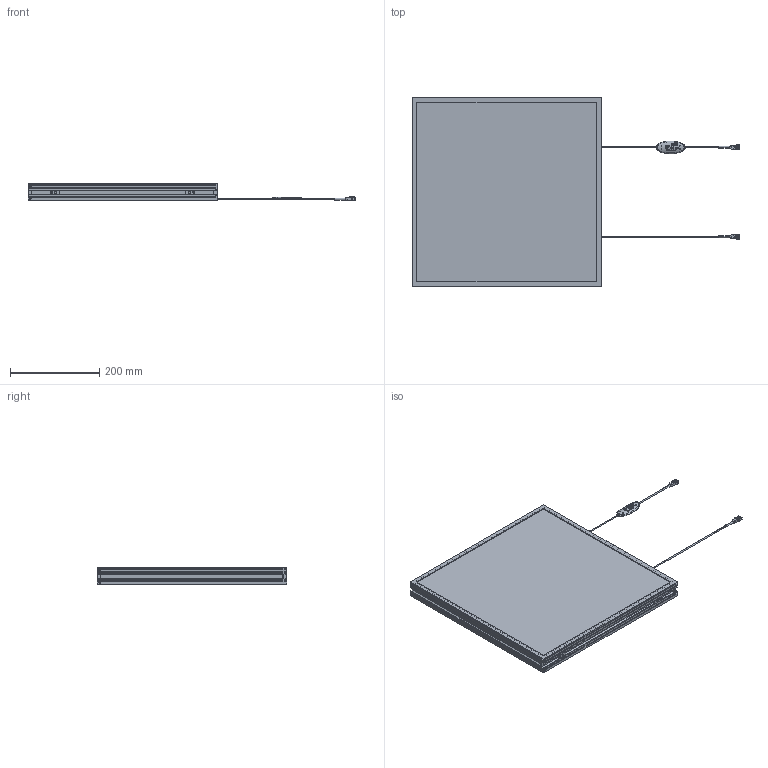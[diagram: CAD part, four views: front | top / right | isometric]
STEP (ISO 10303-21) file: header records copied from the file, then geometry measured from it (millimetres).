
FILE_DESCRIPTION( ('This file contains a STEP AP42 implementation' ,'as created by ZW3D STEP Interface translator.') ,'2;1' );
FILE_NAME( 'VDFL-400400_DRAWING_3D.stp' ,'25 911.1439 2', (''), ('ZWCAD Software Co.'), 'Version 1.0', 'ZW3D to STEP translator', '' );
FILE_SCHEMA(('AUTOMOTIVE_DESIGN { 1 0 10303 214 1 1 1 1 }'));
Length unit declared in the file: millimetre
Products named in the file (1): 0
Bounding box: 733.5 x 423 x 38.6 mm (x, y, z)
Volume: 1003890.8 mm3; surface area: 936478.2 mm2
Topology: 1 solids, 47 shells, 1380 faces, 3743 edges, 2560 vertices
Faces by surface type: plane 853, cylinder 383, cone 126, bspline 10, torus 8
Full cylindrical faces by diameter (mm): 1.6 x122, 2 x8, 2.2 x16
Entity records: 46532 total; most frequent: CARTESIAN_POINT 10091, ORIENTED_EDGE 7390, DIRECTION 6791, EDGE_CURVE 3695, VECTOR 2601, LINE 2601, VERTEX_POINT 2558, AXIS2_PLACEMENT_3D 2095
